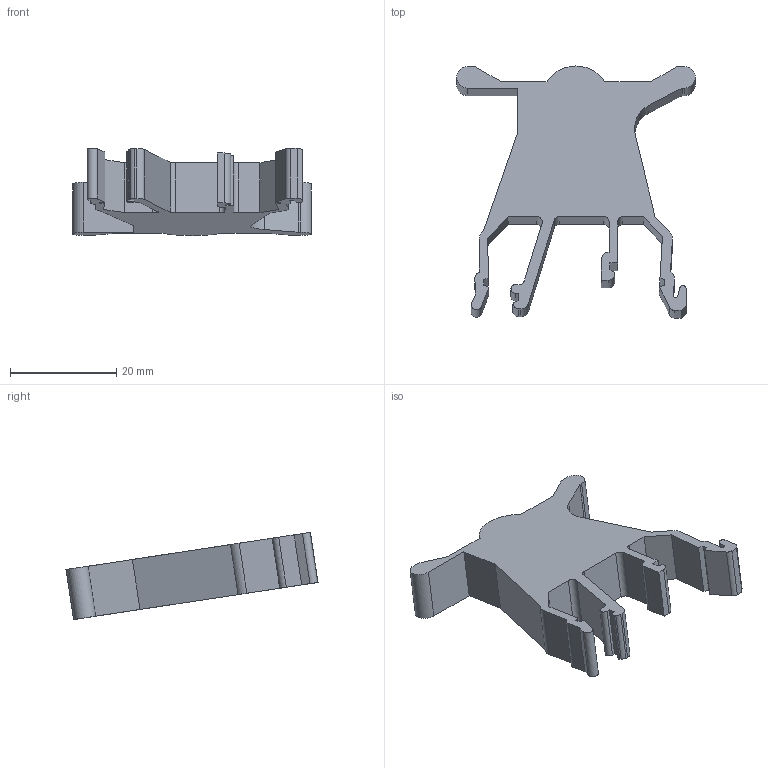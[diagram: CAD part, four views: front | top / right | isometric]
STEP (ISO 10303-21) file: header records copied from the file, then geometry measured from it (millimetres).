
FILE_DESCRIPTION(/* description */ (''),/* implementation_level */ '2;1');
FILE_NAME(/* name */ 'UT2-3B.stp',/* time_stamp */ '2022-12-21T15:20:57+08:00',/* author */ (''),/* organization */ (''),/* preprocessor_version */ 'ST-DEVELOPER v16.7',/* originating_system */ 'SIEMENS PLM Software NX 12.0',/* authorisation */ '');
FILE_SCHEMA (('AUTOMOTIVE_DESIGN { 1 0 10303 214 3 1 1 1 }'));
Length unit declared in the file: millimetre
Products named in the file (1): _model1
Bounding box: 44.8 x 47.36 x 16.38 mm (x, y, z)
Volume: 8402.9 mm3; surface area: 4632.4 mm2
Topology: 1 solids, 1 shells, 81 faces, 237 edges, 158 vertices
Faces by surface type: plane 56, cylinder 25
Entity records: 2705 total; most frequent: CARTESIAN_POINT 477, ORIENTED_EDGE 474, DIRECTION 451, EDGE_CURVE 237, LINE 187, VECTOR 187, VERTEX_POINT 158, AXIS2_PLACEMENT_3D 132
